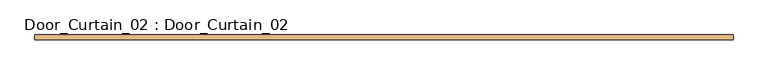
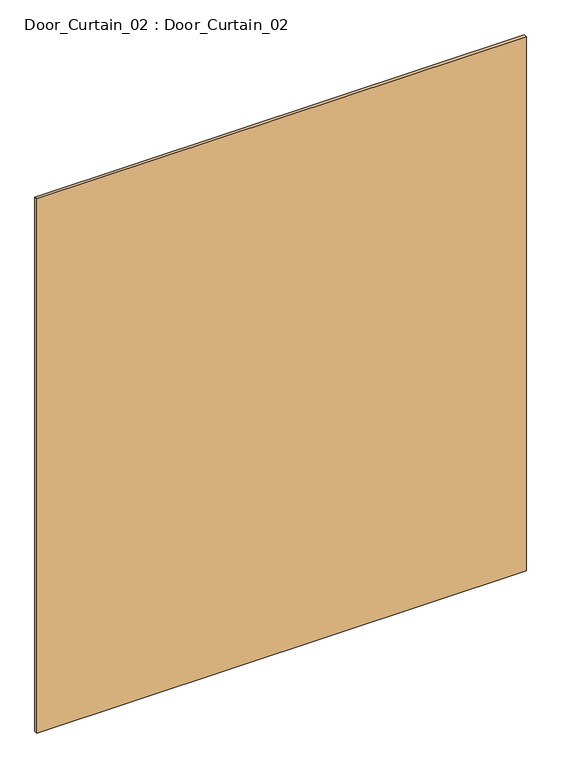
"""IFC4 building model written with IfcOpenShell, lengths in millimetres: door geometry, Door_Curtain_02 : Door_Curtain_02."""

from ifc_helpers import new_model, si_unit, origin, origin_with_axes, place, context, project, spatial, polyline, outline, extrude, source, transform, mapped, element, save


def door_curtain_02_door_curtain_02_bd843177(model_context):
    return source(origin(), model_context, "Body", "SweptSolid", [
        extrude(outline(polyline([(960.0, -5.0), (-960.0, -5.0), (-960.0, 7.7), (960.0, 7.7), (960.0, -5.0)])), origin_with_axes(), (0.0, 0.0, 1.0), 2213.5608581),
    ])


if __name__ == "__main__":
    model = new_model("IFC4")
    model_context = context("Model", 3, world=origin())
    ifc_project = project(units=[si_unit("LENGTHUNIT", "METRE", prefix="MILLI")], contexts=[model_context])
    site = spatial("IfcSite", under=ifc_project)
    building = spatial("IfcBuilding", under=site)
    placement = place(None, origin())
    door_curtain_02_door_curtain_02_shape = door_curtain_02_door_curtain_02_bd843177(model_context)
    element("IfcDoor", 1, ObjectType="Door_Curtain_02 : Door_Curtain_02", at=placement, inside=building, context=model_context, shape_type="MappedRepresentation", body=[
        mapped(door_curtain_02_door_curtain_02_shape, transform((0.0, 0.0, 0.0), x_axis=(1.0, 0.0, 0.0), y_axis=(0.0, 1.0, 0.0), z_axis=(0.0, 0.0, 1.0))),
    ])
    save(model, "model.ifc")
